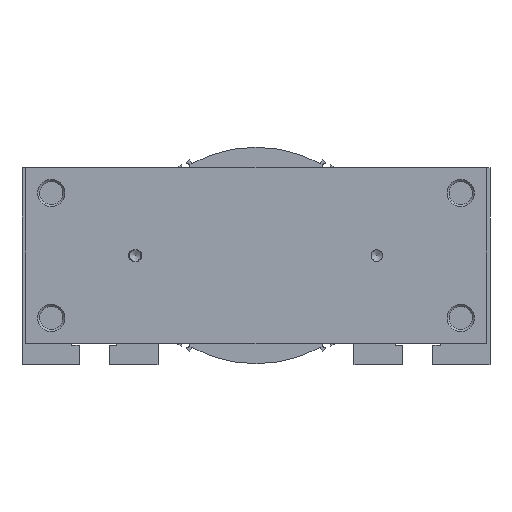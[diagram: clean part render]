
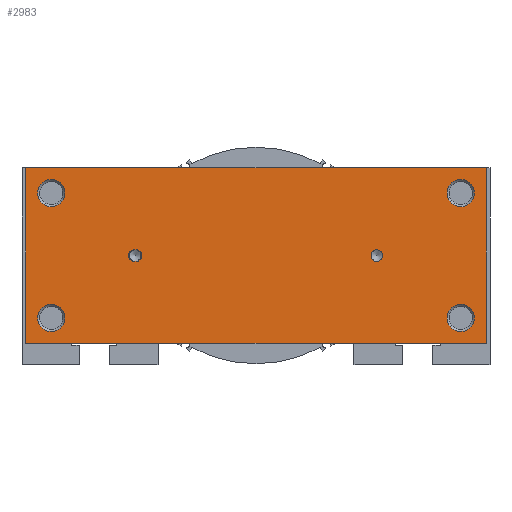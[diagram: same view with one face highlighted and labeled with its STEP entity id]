
A CAD part, left-side view. The second image highlights one B-rep face of the part: STEP entity #2983.
In plain terms, the highlighted planar face has unit normal (-1, 0, 0) as drawn and (0, 0, 1) by its records, which use the part's own axes.
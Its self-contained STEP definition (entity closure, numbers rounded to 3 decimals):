
#336=LINE('',#4946,#564);
#340=LINE('',#4955,#568);
#343=LINE('',#4961,#571);
#346=LINE('',#4967,#574);
#348=LINE('',#4998,#576);
#349=LINE('',#5002,#577);
#564=VECTOR('',#4073,1000.);
#568=VECTOR('',#4079,1000.);
#571=VECTOR('',#4084,1000.);
#574=VECTOR('',#4089,1000.);
#576=VECTOR('',#4121,1000.);
#577=VECTOR('',#4124,1000.);
#1211=ORIENTED_EDGE('',*,*,#1647,.F.);
#1212=ORIENTED_EDGE('',*,*,#1648,.F.);
#1213=ORIENTED_EDGE('',*,*,#1649,.F.);
#1214=ORIENTED_EDGE('',*,*,#1650,.F.);
#1215=ORIENTED_EDGE('',*,*,#1651,.F.);
#1216=ORIENTED_EDGE('',*,*,#1652,.F.);
#1217=ORIENTED_EDGE('',*,*,#1653,.F.);
#1218=ORIENTED_EDGE('',*,*,#1654,.F.);
#1219=ORIENTED_EDGE('',*,*,#1655,.F.);
#1220=ORIENTED_EDGE('',*,*,#1628,.T.);
#1221=ORIENTED_EDGE('',*,*,#1632,.T.);
#1222=ORIENTED_EDGE('',*,*,#1635,.T.);
#1223=ORIENTED_EDGE('',*,*,#1638,.T.);
#1628=EDGE_CURVE('',#1931,#1932,#336,.T.);
#1632=EDGE_CURVE('',#1932,#1935,#340,.T.);
#1635=EDGE_CURVE('',#1935,#1937,#343,.T.);
#1638=EDGE_CURVE('',#1937,#1931,#346,.T.);
#1647=EDGE_CURVE('',#1946,#1946,#2103,.T.);
#1648=EDGE_CURVE('',#1947,#1947,#2104,.T.);
#1649=EDGE_CURVE('',#1948,#1948,#2105,.T.);
#1650=EDGE_CURVE('',#1949,#1949,#2106,.T.);
#1651=EDGE_CURVE('',#1950,#1950,#2107,.T.);
#1652=EDGE_CURVE('',#1951,#1952,#2108,.T.);
#1653=EDGE_CURVE('',#1953,#1951,#348,.T.);
#1654=EDGE_CURVE('',#1954,#1953,#2109,.T.);
#1655=EDGE_CURVE('',#1952,#1954,#349,.T.);
#1931=VERTEX_POINT('',#4947);
#1932=VERTEX_POINT('',#4948);
#1935=VERTEX_POINT('',#4956);
#1937=VERTEX_POINT('',#4962);
#1946=VERTEX_POINT('',#4986);
#1947=VERTEX_POINT('',#4988);
#1948=VERTEX_POINT('',#4990);
#1949=VERTEX_POINT('',#4992);
#1950=VERTEX_POINT('',#4994);
#1951=VERTEX_POINT('',#4996);
#1952=VERTEX_POINT('',#4997);
#1953=VERTEX_POINT('',#4999);
#1954=VERTEX_POINT('',#5001);
#2103=CIRCLE('',#3320,7.);
#2104=CIRCLE('',#3321,7.);
#2105=CIRCLE('',#3322,7.);
#2106=CIRCLE('',#3323,7.);
#2107=CIRCLE('',#3324,3.);
#2108=CIRCLE('',#3325,3.);
#2109=CIRCLE('',#3326,3.);
#2359=EDGE_LOOP('',(#1211));
#2360=EDGE_LOOP('',(#1212));
#2361=EDGE_LOOP('',(#1213));
#2362=EDGE_LOOP('',(#1214));
#2363=EDGE_LOOP('',(#1215));
#2364=EDGE_LOOP('',(#1216,#1217,#1218,#1219));
#2365=EDGE_LOOP('',(#1220,#1221,#1222,#1223));
#2669=FACE_BOUND('',#2359,.T.);
#2670=FACE_BOUND('',#2360,.T.);
#2671=FACE_BOUND('',#2361,.T.);
#2672=FACE_BOUND('',#2362,.T.);
#2673=FACE_BOUND('',#2363,.T.);
#2674=FACE_BOUND('',#2364,.T.);
#2675=FACE_BOUND('',#2365,.T.);
#2820=PLANE('',#3319);
#2983=ADVANCED_FACE('',(#2669,#2670,#2671,#2672,#2673,#2674,#2675),#2820,
 .T.);
#3319=AXIS2_PLACEMENT_3D('',#4984,#4107,#4108);
#3320=AXIS2_PLACEMENT_3D('',#4985,#4109,#4110);
#3321=AXIS2_PLACEMENT_3D('',#4987,#4111,#4112);
#3322=AXIS2_PLACEMENT_3D('',#4989,#4113,#4114);
#3323=AXIS2_PLACEMENT_3D('',#4991,#4115,#4116);
#3324=AXIS2_PLACEMENT_3D('',#4993,#4117,#4118);
#3325=AXIS2_PLACEMENT_3D('',#4995,#4119,#4120);
#3326=AXIS2_PLACEMENT_3D('',#5000,#4122,#4123);
#4073=DIRECTION('',(0.,-1.,0.));
#4079=DIRECTION('',(1.,0.,0.));
#4084=DIRECTION('',(0.,1.,0.));
#4089=DIRECTION('',(-1.,0.,0.));
#4107=DIRECTION('',(0.,0.,1.));
#4108=DIRECTION('',(1.,0.,0.));
#4109=DIRECTION('',(0.,0.,1.));
#4110=DIRECTION('',(1.,0.,0.));
#4111=DIRECTION('',(0.,0.,1.));
#4112=DIRECTION('',(1.,0.,0.));
#4113=DIRECTION('',(0.,0.,1.));
#4114=DIRECTION('',(1.,0.,0.));
#4115=DIRECTION('',(0.,0.,1.));
#4116=DIRECTION('',(1.,0.,0.));
#4117=DIRECTION('',(0.,0.,1.));
#4118=DIRECTION('',(1.,0.,0.));
#4119=DIRECTION('',(0.,0.,1.));
#4120=DIRECTION('',(1.,0.,0.));
#4121=DIRECTION('',(0.,1.,0.));
#4122=DIRECTION('',(0.,0.,1.));
#4123=DIRECTION('',(1.,0.,0.));
#4124=DIRECTION('',(0.,-1.,0.));
#4946=CARTESIAN_POINT('',(-45.,118.,50.));
#4947=CARTESIAN_POINT('',(-45.,118.,50.));
#4948=CARTESIAN_POINT('',(-45.,-118.,50.));
#4955=CARTESIAN_POINT('',(-45.,-118.,50.));
#4956=CARTESIAN_POINT('',(45.,-118.,50.));
#4961=CARTESIAN_POINT('',(45.,-118.,50.));
#4962=CARTESIAN_POINT('',(45.,118.,50.));
#4967=CARTESIAN_POINT('',(45.,118.,50.));
#4984=CARTESIAN_POINT('',(0.,0.,50.));
#4985=CARTESIAN_POINT('',(-32.,105.,50.));
#4986=CARTESIAN_POINT('',(-25.,105.,50.));
#4987=CARTESIAN_POINT('',(32.,105.,50.));
#4988=CARTESIAN_POINT('',(39.,105.,50.));
#4989=CARTESIAN_POINT('',(-32.,-105.,50.));
#4990=CARTESIAN_POINT('',(-25.,-105.,50.));
#4991=CARTESIAN_POINT('',(32.,-105.,50.));
#4992=CARTESIAN_POINT('',(39.,-105.,50.));
#4993=CARTESIAN_POINT('',(0.,-62.,50.));
#4994=CARTESIAN_POINT('',(3.,-62.,50.));
#4995=CARTESIAN_POINT('',(0.,62.5,50.));
#4996=CARTESIAN_POINT('',(3.,62.5,50.));
#4997=CARTESIAN_POINT('',(-3.,62.5,50.));
#4998=CARTESIAN_POINT('',(3.,61.5,50.));
#4999=CARTESIAN_POINT('',(3.,61.5,50.));
#5000=CARTESIAN_POINT('',(0.,61.5,50.));
#5001=CARTESIAN_POINT('',(-3.,61.5,50.));
#5002=CARTESIAN_POINT('',(-3.,62.5,50.));
